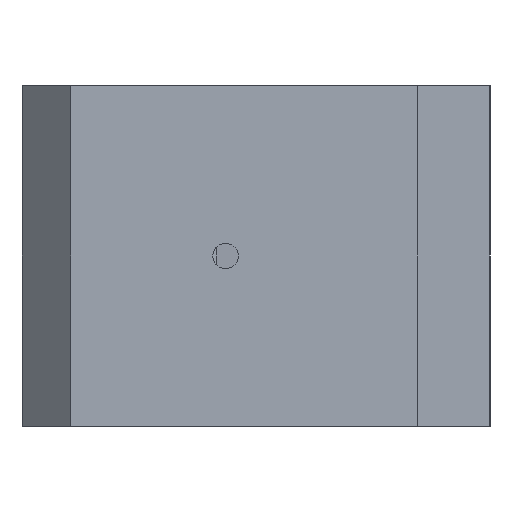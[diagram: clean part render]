
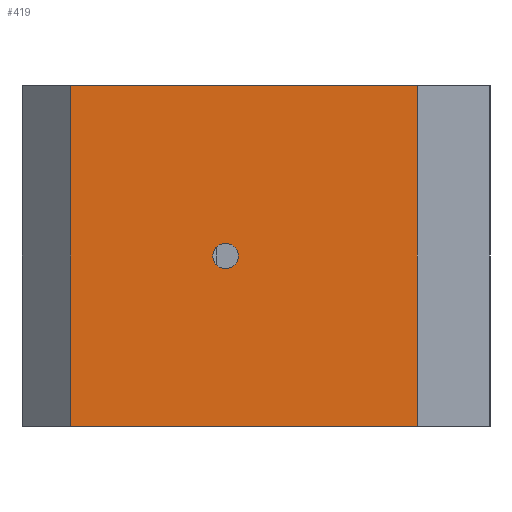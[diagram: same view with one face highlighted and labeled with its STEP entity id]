
A CAD part, left-side view. The second image highlights one B-rep face of the part: STEP entity #419.
In plain terms, the highlighted planar face has unit normal (-1, 0, 0).
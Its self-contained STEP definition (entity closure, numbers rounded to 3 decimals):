
#22 = VECTOR ( 'NONE', #402, 1000. ) ;
#39 = LINE ( 'NONE', #124, #22 ) ;
#55 = VERTEX_POINT ( 'NONE', #318 ) ;
#58 = DIRECTION ( 'NONE',  ( -1., 0., 0. ) ) ;
#72 = CARTESIAN_POINT ( 'NONE',  ( -37., 38.5, 28. ) ) ;
#83 = CARTESIAN_POINT ( 'NONE',  ( -37., -26.5, -28. ) ) ;
#85 = CARTESIAN_POINT ( 'NONE',  ( -37., -26.5, -28. ) ) ;
#89 = ORIENTED_EDGE ( 'NONE', *, *, #590, .F. ) ;
#101 = FACE_BOUND ( 'NONE', #572, .T. ) ;
#120 = CARTESIAN_POINT ( 'NONE',  ( -37., 5., -2.1 ) ) ;
#124 = CARTESIAN_POINT ( 'NONE',  ( -37., 38.5, -28. ) ) ;
#167 = LINE ( 'NONE', #85, #907 ) ;
#207 = EDGE_CURVE ( 'NONE', #701, #55, #843, .T. ) ;
#227 = AXIS2_PLACEMENT_3D ( 'NONE', #303, #381, #233 ) ;
#233 = DIRECTION ( 'NONE',  ( 0., 0., 1. ) ) ;
#239 = CIRCLE ( 'NONE', #227, 2.1 ) ;
#252 = AXIS2_PLACEMENT_3D ( 'NONE', #725, #582, #509 ) ;
#276 = EDGE_CURVE ( 'NONE', #649, #405, #493, .T. ) ;
#277 = VECTOR ( 'NONE', #714, 1000. ) ;
#303 = CARTESIAN_POINT ( 'NONE',  ( -37., 5., 0. ) ) ;
#306 = EDGE_CURVE ( 'NONE', #682, #649, #508, .T. ) ;
#318 = CARTESIAN_POINT ( 'NONE',  ( -37., 5., 2.1 ) ) ;
#325 = CARTESIAN_POINT ( 'NONE',  ( -37., 30.5, 28. ) ) ;
#329 = AXIS2_PLACEMENT_3D ( 'NONE', #349, #58, #857 ) ;
#349 = CARTESIAN_POINT ( 'NONE',  ( -37., 5., 0. ) ) ;
#361 = VERTEX_POINT ( 'NONE', #83 ) ;
#381 = DIRECTION ( 'NONE',  ( -1., 0., 0. ) ) ;
#402 = DIRECTION ( 'NONE',  ( 0., 1., 0. ) ) ;
#405 = VERTEX_POINT ( 'NONE', #655 ) ;
#419 = ADVANCED_FACE ( 'NONE', ( #101, #730 ), #808, .F. ) ;
#437 = VECTOR ( 'NONE', #589, 1000. ) ;
#454 = ORIENTED_EDGE ( 'NONE', *, *, #276, .T. ) ;
#480 = ORIENTED_EDGE ( 'NONE', *, *, #207, .F. ) ;
#485 = ORIENTED_EDGE ( 'NONE', *, *, #697, .F. ) ;
#493 = LINE ( 'NONE', #639, #277 ) ;
#508 = LINE ( 'NONE', #72, #437 ) ;
#509 = DIRECTION ( 'NONE',  ( 0., 1., 0. ) ) ;
#514 = ORIENTED_EDGE ( 'NONE', *, *, #792, .T. ) ;
#572 = EDGE_LOOP ( 'NONE', ( #89, #480 ) ) ;
#582 = DIRECTION ( 'NONE',  ( 1., 0., 0. ) ) ;
#589 = DIRECTION ( 'NONE',  ( 0., 1., 0. ) ) ;
#590 = EDGE_CURVE ( 'NONE', #55, #701, #239, .T. ) ;
#622 = CARTESIAN_POINT ( 'NONE',  ( -37., -26.5, 28. ) ) ;
#639 = CARTESIAN_POINT ( 'NONE',  ( -37., 30.5, -28. ) ) ;
#649 = VERTEX_POINT ( 'NONE', #325 ) ;
#655 = CARTESIAN_POINT ( 'NONE',  ( -37., 30.5, -28. ) ) ;
#682 = VERTEX_POINT ( 'NONE', #622 ) ;
#693 = ORIENTED_EDGE ( 'NONE', *, *, #306, .T. ) ;
#697 = EDGE_CURVE ( 'NONE', #361, #405, #39, .T. ) ;
#701 = VERTEX_POINT ( 'NONE', #120 ) ;
#714 = DIRECTION ( 'NONE',  ( 0., 0., -1. ) ) ;
#725 = CARTESIAN_POINT ( 'NONE',  ( -37., 38.5, -28. ) ) ;
#730 = FACE_OUTER_BOUND ( 'NONE', #731, .T. ) ;
#731 = EDGE_LOOP ( 'NONE', ( #693, #454, #485, #514 ) ) ;
#792 = EDGE_CURVE ( 'NONE', #361, #682, #167, .T. ) ;
#803 = DIRECTION ( 'NONE',  ( 0., 0., 1. ) ) ;
#808 = PLANE ( 'NONE',  #252 ) ;
#843 = CIRCLE ( 'NONE', #329, 2.1 ) ;
#857 = DIRECTION ( 'NONE',  ( 0., 0., 1. ) ) ;
#907 = VECTOR ( 'NONE', #803, 1000. ) ;
